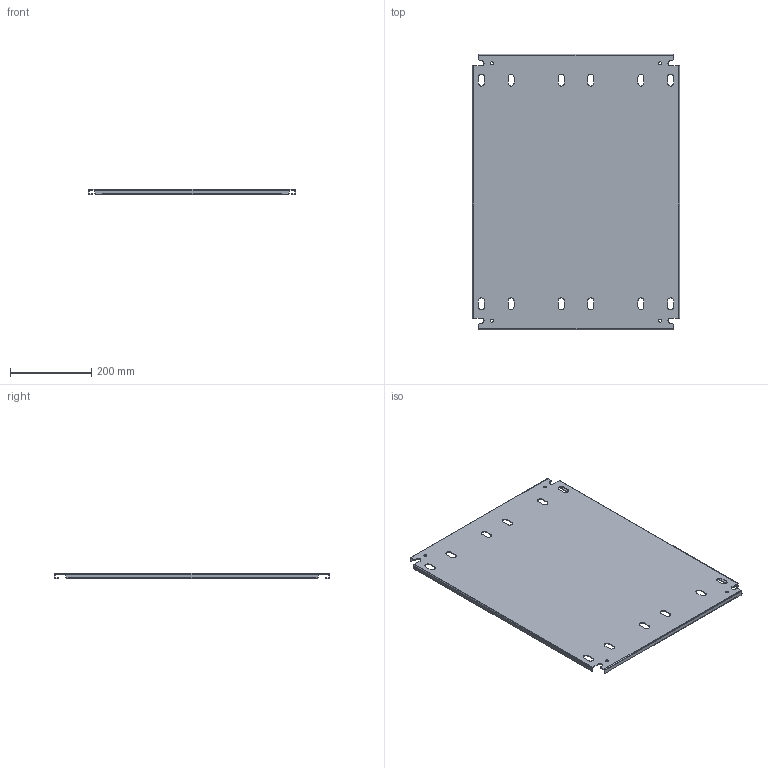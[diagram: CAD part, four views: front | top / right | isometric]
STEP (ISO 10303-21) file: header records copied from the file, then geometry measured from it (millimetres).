
FILE_DESCRIPTION(/* description */ ('1412BTSSCU 20.125" x 26.75" Left Inner Panel'),/* implementation_level */ '2;1');
FILE_NAME(/* name */ 'C:\Vault_Workspace\Inventor_Dwg\BoxCad\Result\1412BTSSCU111603\e-mail\3D\1412BTSSCU111603IP1.stp',/* time_stamp */ '2022-09-20T12:46:08-04:00',/* author */ ('BoxCad'),/* organization */ (''),/* preprocessor_version */ 'ST-DEVELOPER v18.1',/* originating_system */ 'Autodesk Inventor 2020',/* authorisation */ '');
FILE_SCHEMA (('AUTOMOTIVE_DESIGN { 1 0 10303 214 3 1 1 }'));
Length unit declared in the file: inch
Products named in the file (2): 1412BTSSCU111603IP1; 1412BTSSCU111603IP1-P
Assembly tree (1 placements, depth 2):
  1412BTSSCU111603IP1
    1412BTSSCU111603IP1-P
Bounding box: 511.18 x 679.45 x 13 mm (x, y, z)
Volume: 657267 mm3; surface area: 767342.3 mm2
Topology: 1 solids, 1 shells, 158 faces, 468 edges, 312 vertices
Faces by surface type: plane 90, cylinder 68
Full cylindrical faces by diameter (mm): 7.366 x4
Entity records: 5441 total; most frequent: CARTESIAN_POINT 941, ORIENTED_EDGE 936, DIRECTION 926, EDGE_CURVE 468, LINE 332, VECTOR 332, VERTEX_POINT 312, AXIS2_PLACEMENT_3D 297
